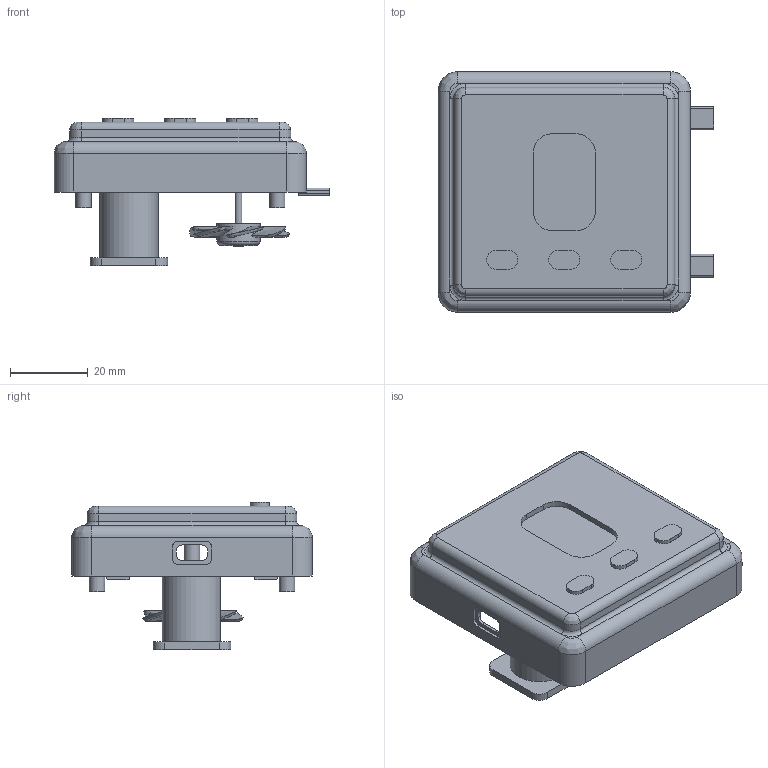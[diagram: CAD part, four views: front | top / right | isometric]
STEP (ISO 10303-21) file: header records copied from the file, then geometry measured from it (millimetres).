
FILE_DESCRIPTION(/* description */ (''),/* implementation_level */ '2;1');
FILE_NAME(/* name */ '样题8.stp',/* time_stamp */ '2021-03-16T13:02:24+08:00',/* author */ (''),/* organization */ (''),/* preprocessor_version */ 'ST-DEVELOPER v16',/* originating_system */ 'SIEMENS PLM Software NX 10.0',/* authorisation */ '');
FILE_SCHEMA (('AUTOMOTIVE_DESIGN { 1 0 10303 214 3 1 1 1 }'));
Length unit declared in the file: millimetre
Products named in the file (7): 外接件; 电器元件; 风扇; 电路板; 屏幕; 按钮; 样题8
Assembly tree (9 placements, depth 2):
  样题8
    按钮  x3
    屏幕
    电路板
    风扇
    电器元件
    外接件  x2
Bounding box: 71.05 x 62 x 38 mm (x, y, z)
Volume: 18177.5 mm3; surface area: 22773.2 mm2
Topology: 10 solids, 12 shells, 395 faces, 1000 edges, 645 vertices
Faces by surface type: plane 176, cylinder 127, bspline 64, torus 21, sphere 7
Full cylindrical faces by diameter (mm): 1.764 x2, 2 x4, 3.92 x1, 4 x5, 8.96 x1, 11.2 x1, 15 x1
Entity records: 14180 total; most frequent: CARTESIAN_POINT 5486, ORIENTED_EDGE 1838, DIRECTION 1660, EDGE_CURVE 919, AXIS2_PLACEMENT_3D 612, VERTEX_POINT 597, LINE 436, VECTOR 436
